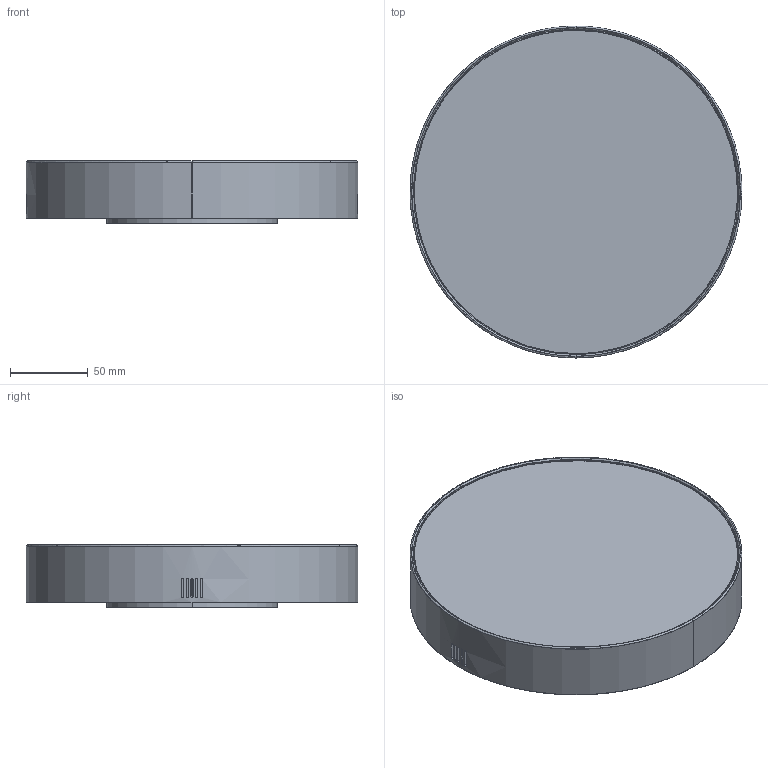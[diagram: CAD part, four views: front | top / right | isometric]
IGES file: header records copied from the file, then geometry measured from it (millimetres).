
Start section: SolidWorks IGES file using analytic representation for surfaces
Global section: file name: C:\Users\anna.bielnik\Desktop\modele 3D tymczasowe\LID-ROUND-LED-35W\PM\Z³o¿enie LID ROUND LED 35w b.IGS; native system: SolidWorks 2023; preprocessor: SolidWorks 2023; author: anna.bielnik; date: 230706.140410; units: millimetre
Bounding box: 214 x 214 x 40 mm (x, y, z)
Surface area: 277213.1 mm2 (no closed solid volume)
Topology: 0 solids, 0 shells, 75 faces, 1592 edges, 1592 vertices
Faces by surface type: revolution 38, bspline 37
